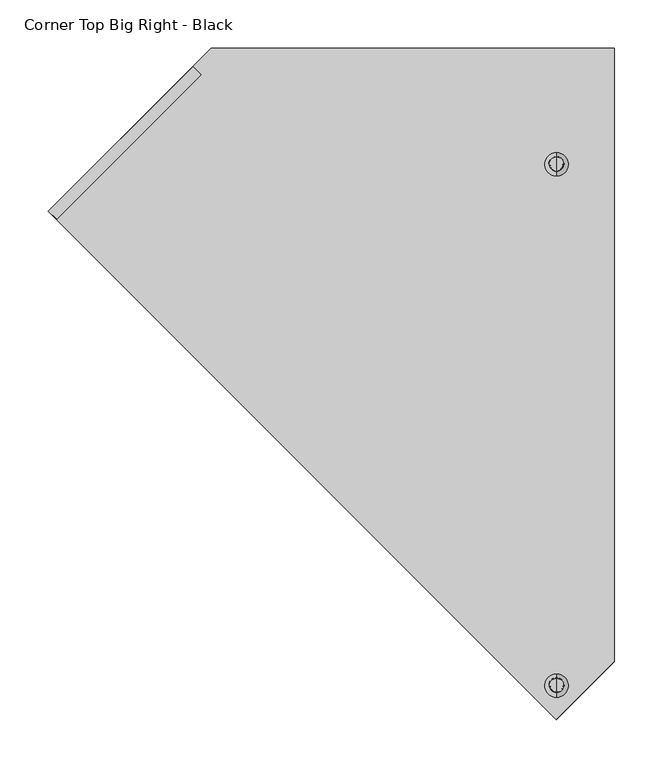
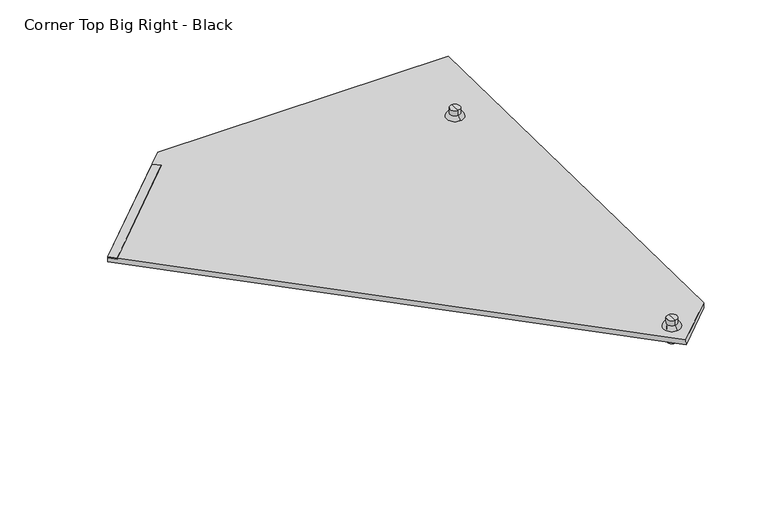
"""IFC4 building model written with IfcOpenShell, lengths in millimetres: proxy geometry, Roofing_Panels_SunStyle_Tile_Corner-Top-Big-Right : Corner Top Big Right - Black."""

from ifc_helpers import new_model, si_unit, point, frame, frame_2d, origin, place, context, project, spatial, polyline, circle_curve, ellipse_curve, trimmed, segment, composite_curve, outline, extrude, source, transform, mapped, element, save
from ifc_brep_helpers import plane_surface, cylinder_surface, revolved_surface, advanced_brep


def corner_top_big_right_black_5e162ca8(model_context):
    return source(origin(), model_context, "Body", "SolidModel", [
        extrude(outline(polyline([(0.0, -12.0000001), (0.0, 0.0), (211.9535765, 0.0), (211.9535765, -12.0), (0.0, -12.0000001)])), frame((-526.8811233, -88.5018869, 16.3055258), z_axis=(0.0, 0.01674516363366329, 0.9998597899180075), x_axis=(0.7071563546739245, 0.7069580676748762, -0.011839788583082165)), (0.0, 0.0, 1.0), 1.5),
        advanced_brep(
        [(0.0, -46.6235618, 17.7421994), (0.0, -33.2904813, 17.5189035), (0.0, -33.6587904, -4.4729659), (0.0, -46.9918709, -4.2496699), (0.0, -52.1227907, 17.8342978), (0.0, -27.7912524, 17.4268051), (0.0, -47.1737944, 22.7481046), (0.0, -32.5729314, 22.5035765), (0.0, -39.7393344, 30.6287287), (0.0, -32.438903, 30.5064647), (0.0, -47.0397659, 30.7509928), (0.0, -40.3253307, -4.3613179)],
        [
            (0, 1, circle_curve(frame((0.0, -39.9570216, 17.6305515), z_axis=(0.0, -0.016745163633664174, -0.9998597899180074), x_axis=(0.0, 0.9998597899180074, -0.016745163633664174)), 6.6674751)),
            (1, 2),
            (2, 3, circle_curve(frame((0.0, -40.3253307, -4.3613179), z_axis=(0.0, 0.016745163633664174, 0.9998597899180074), x_axis=(0.0, 0.9998597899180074, -0.016745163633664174)), 6.6674751)),
            (3, 0),
            (1, 0, circle_curve(frame((0.0, -39.9570216, 17.6305515), z_axis=(0.0, -0.016745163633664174, -0.9998597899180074), x_axis=(0.0, 0.9998597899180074, -0.016745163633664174)), 6.6674751)),
            (3, 2, circle_curve(frame((0.0, -40.3253307, -4.3613179), z_axis=(0.0, 0.016745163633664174, 0.9998597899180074), x_axis=(0.0, 0.9998597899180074, -0.016745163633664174)), 6.6674751)),
            (4, 5, circle_curve(frame((0.0, -39.9570216, 17.6305515), z_axis=(0.0, -0.016745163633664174, -0.9998597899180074), x_axis=(0.0, 0.9998597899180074, -0.016745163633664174)), 12.1674751)),
            (5, 1),
            (0, 4),
            (5, 4, circle_curve(frame((0.0, -39.9570216, 17.6305515), z_axis=(0.0, -0.016745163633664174, -0.9998597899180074), x_axis=(0.0, 0.9998597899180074, -0.016745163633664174)), 12.1674751)),
            (6, 7, circle_curve(frame((0.0, -39.8733629, 22.6258405), z_axis=(0.0, -0.016745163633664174, -0.9998597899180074), x_axis=(0.0, 0.9998597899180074, -0.016745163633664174)), 7.3014552)),
            (7, 5, circle_curve(frame((0.0, -32.8771294, 17.4268051), z_axis=(-1.0, 0.0, 0.0), x_axis=(0.0, -1.0, 0.0)), 5.0858769)),
            (4, 6, circle_curve(frame((0.0, -47.0397659, 17.663994), z_axis=(-1.0, 0.0, 0.0), x_axis=(0.0, 0.9994391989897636, -0.03348563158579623)), 5.0858769)),
            (7, 6, circle_curve(frame((0.0, -39.8733629, 22.6258405), z_axis=(0.0, -0.016745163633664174, -0.9998597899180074), x_axis=(0.0, 0.9998597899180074, -0.016745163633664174)), 7.3014552)),
            (8, 9),
            (9, 10, circle_curve(frame((0.0, -39.7393344, 30.6287287), z_axis=(0.0, 0.016745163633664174, 0.9998597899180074), x_axis=(0.0, 0.9998597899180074, -0.016745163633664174)), 7.3014552)),
            (10, 8),
            (10, 9, circle_curve(frame((0.0, -39.7393344, 30.6287287), z_axis=(0.0, 0.016745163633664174, 0.9998597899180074), x_axis=(0.0, 0.9998597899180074, -0.016745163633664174)), 7.3014552)),
            (2, 11),
            (11, 3),
            (9, 7),
            (6, 10),
        ],
        [
            cylinder_surface(frame((0.0, -39.7393344, 30.6287287), z_axis=(0.0, 0.016745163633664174, 0.9998597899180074), x_axis=(0.0, 0.9998597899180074, -0.016745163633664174)), 6.6674751),
            plane_surface(frame((0.0, -39.9570216, 17.6305515), z_axis=(0.0, -0.016745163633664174, -0.9998597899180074), x_axis=(0.0, 0.9998597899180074, -0.016745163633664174))),
            revolved_surface(trimmed(ellipse_curve(frame((0.0, -32.8771294, 17.4268051), z_axis=(1.0, 0.0, 0.0), x_axis=(0.0, -1.0, 0.0)), 5.0858769, 5.0858769), [point((0.0, -27.7912524, 17.4268051))], [point((0.0, -32.5729314, 22.5035765))], True, "CARTESIAN"), (0.0, -39.7393344, 30.6287287), (0.0, 0.016745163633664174, 0.9998597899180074)),
            plane_surface(frame((0.0, -39.7393344, 30.6287287), z_axis=(0.0, 0.016745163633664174, 0.9998597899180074), x_axis=(0.0, 0.9998597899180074, -0.016745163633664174))),
            plane_surface(frame((0.0, -40.3253307, -4.3613179), z_axis=(0.0, -0.016745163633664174, -0.9998597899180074), x_axis=(0.0, 0.9998597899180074, -0.016745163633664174))),
            cylinder_surface(frame((0.0, -39.7393344, 30.6287287), z_axis=(0.0, 0.016745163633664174, 0.9998597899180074), x_axis=(0.0, 0.9998597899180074, -0.016745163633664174)), 7.3014552),
        ],
        [
            (0, [[1, 2, 3, 4]]),
            (0, [[5, -4, 6, -2]]),
            (1, [[7, 8, -1, 9]]),
            (1, [[10, -9, -5, -8]]),
            (2, [[11, 12, -7, 13]]),
            (2, [[14, -13, -10, -12]]),
            (3, [[15, 16, 17]]),
            (3, [[-17, 18, -15]]),
            (4, [[-3, 19, 20]]),
            (4, [[-6, -20, -19]]),
            (5, [[-16, 21, -11, 22]]),
            (5, [[-18, -22, -14, -21]]),
        ],
    ),
        advanced_brep(
        [(0.0, -586.7060528, 26.2215343), (0.0, -573.3729723, 25.9982384), (0.0, -573.7412814, 4.0063691), (0.0, -587.0743619, 4.229665), (0.0, -592.2052817, 26.3136327), (0.0, -567.8737434, 25.90614), (0.0, -587.2562854, 31.2274395), (0.0, -572.6554224, 30.9829114), (0.0, -579.8218254, 39.1080636), (0.0, -572.521394, 38.9857996), (0.0, -587.1222569, 39.2303277), (0.0, -580.4078217, 4.118017)],
        [
            (0, 1, circle_curve(frame((0.0, -580.0395126, 26.1098864), z_axis=(0.0, -0.016745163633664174, -0.9998597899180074), x_axis=(0.0, 0.9998597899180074, -0.016745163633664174)), 6.6674751)),
            (1, 2),
            (2, 3, circle_curve(frame((0.0, -580.4078217, 4.118017), z_axis=(0.0, 0.016745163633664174, 0.9998597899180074), x_axis=(0.0, 0.9998597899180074, -0.016745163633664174)), 6.6674751)),
            (3, 0),
            (1, 0, circle_curve(frame((0.0, -580.0395126, 26.1098864), z_axis=(0.0, -0.016745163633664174, -0.9998597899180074), x_axis=(0.0, 0.9998597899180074, -0.016745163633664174)), 6.6674751)),
            (3, 2, circle_curve(frame((0.0, -580.4078217, 4.118017), z_axis=(0.0, 0.016745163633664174, 0.9998597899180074), x_axis=(0.0, 0.9998597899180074, -0.016745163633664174)), 6.6674751)),
            (4, 5, circle_curve(frame((0.0, -580.0395126, 26.1098864), z_axis=(0.0, -0.016745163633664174, -0.9998597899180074), x_axis=(0.0, 0.9998597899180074, -0.016745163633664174)), 12.1674751)),
            (5, 1),
            (0, 4),
            (5, 4, circle_curve(frame((0.0, -580.0395126, 26.1098864), z_axis=(0.0, -0.016745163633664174, -0.9998597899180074), x_axis=(0.0, 0.9998597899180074, -0.016745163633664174)), 12.1674751)),
            (6, 7, circle_curve(frame((0.0, -579.9558539, 31.1051755), z_axis=(0.0, -0.016745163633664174, -0.9998597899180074), x_axis=(0.0, 0.9998597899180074, -0.016745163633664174)), 7.3014552)),
            (7, 5, circle_curve(frame((0.0, -572.9596204, 25.90614), z_axis=(-1.0, 0.0, 0.0), x_axis=(0.0, -1.0, 0.0)), 5.0858769)),
            (4, 6, circle_curve(frame((0.0, -587.1222569, 26.1433289), z_axis=(-1.0, 0.0, 0.0), x_axis=(0.0, 0.9994391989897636, -0.03348563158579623)), 5.0858769)),
            (7, 6, circle_curve(frame((0.0, -579.9558539, 31.1051755), z_axis=(0.0, -0.016745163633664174, -0.9998597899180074), x_axis=(0.0, 0.9998597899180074, -0.016745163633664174)), 7.3014552)),
            (8, 9),
            (9, 10, circle_curve(frame((0.0, -579.8218254, 39.1080636), z_axis=(0.0, 0.016745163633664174, 0.9998597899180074), x_axis=(0.0, 0.9998597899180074, -0.016745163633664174)), 7.3014552)),
            (10, 8),
            (10, 9, circle_curve(frame((0.0, -579.8218254, 39.1080636), z_axis=(0.0, 0.016745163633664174, 0.9998597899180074), x_axis=(0.0, 0.9998597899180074, -0.016745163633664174)), 7.3014552)),
            (2, 11),
            (11, 3),
            (9, 7),
            (6, 10),
        ],
        [
            cylinder_surface(frame((0.0, -579.8218254, 39.1080636), z_axis=(0.0, 0.016745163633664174, 0.9998597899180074), x_axis=(0.0, 0.9998597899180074, -0.016745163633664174)), 6.6674751),
            plane_surface(frame((0.0, -580.0395126, 26.1098864), z_axis=(0.0, -0.016745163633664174, -0.9998597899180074), x_axis=(0.0, 0.9998597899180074, -0.016745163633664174))),
            revolved_surface(trimmed(ellipse_curve(frame((0.0, -572.9596204, 25.90614), z_axis=(1.0, 0.0, 0.0), x_axis=(0.0, -1.0, 0.0)), 5.0858769, 5.0858769), [point((0.0, -567.8737434, 25.90614))], [point((0.0, -572.6554224, 30.9829114))], True, "CARTESIAN"), (0.0, -579.8218254, 39.1080636), (0.0, 0.016745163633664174, 0.9998597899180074)),
            plane_surface(frame((0.0, -579.8218254, 39.1080636), z_axis=(0.0, 0.016745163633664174, 0.9998597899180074), x_axis=(0.0, 0.9998597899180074, -0.016745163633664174))),
            plane_surface(frame((0.0, -580.4078217, 4.118017), z_axis=(0.0, -0.016745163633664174, -0.9998597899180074), x_axis=(0.0, 0.9998597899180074, -0.016745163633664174))),
            cylinder_surface(frame((0.0, -579.8218254, 39.1080636), z_axis=(0.0, 0.016745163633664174, 0.9998597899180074), x_axis=(0.0, 0.9998597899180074, -0.016745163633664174)), 7.3014552),
        ],
        [
            (0, [[1, 2, 3, 4]]),
            (0, [[5, -4, 6, -2]]),
            (1, [[7, 8, -1, 9]]),
            (1, [[10, -9, -5, -8]]),
            (2, [[11, 12, -7, 13]]),
            (2, [[14, -13, -10, -12]]),
            (3, [[15, 16, 17]]),
            (3, [[-17, 18, -15]]),
            (4, [[-3, 19, 20]]),
            (4, [[-6, -20, -19]]),
            (5, [[-16, 21, -11, 22]]),
            (5, [[-18, -22, -14, -21]]),
        ],
    ),
        extrude(outline(polyline([(660.3542643, 366.1481234), (660.3542643, -52.1893954), (24.8473132, -52.1893954), (-35.248336, 7.914681), (491.6445714, 534.8814744), (660.3542643, 366.1481234)]), holes=[composite_curve([segment(trimmed(circle_curve(frame_2d((0.0, 8.0)), 8.0), [point((0.0, 16.0))], [point((0.0, 0.0))], True, "CARTESIAN"), True, "CONTINUOUS"), segment(trimmed(circle_curve(frame_2d((0.0, 8.0)), 8.0), [point((0.0, 0.0))], [point((0.0, 16.0))], True, "CARTESIAN"), True, "CONTINUOUS")], self_intersect=False), composite_curve([segment(trimmed(circle_curve(frame_2d((540.0971415, 7.9143585)), 8.0), [point((540.0971415, 15.9143585))], [point((540.0971415, -0.0856415))], True, "CARTESIAN"), True, "CONTINUOUS"), segment(trimmed(circle_curve(frame_2d((540.0971415, 7.9143585)), 8.0), [point((540.0971415, -0.0856415))], [point((540.0971415, 15.9143585))], True, "CARTESIAN"), True, "CONTINUOUS")], self_intersect=False)]), frame((7.9143585, -580.0923609, 18.5176762), z_axis=(0.0, 0.016745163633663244, 0.9998597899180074), x_axis=(0.0, 0.9998597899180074, -0.016745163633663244)), (0.0, 0.0, 1.0), 7.5),
    ])


if __name__ == "__main__":
    model = new_model("IFC4")
    model_context = context("Model", 3, world=origin())
    ifc_project = project(units=[si_unit("LENGTHUNIT", "METRE", prefix="MILLI")], contexts=[model_context])
    site = spatial("IfcSite", under=ifc_project)
    building = spatial("IfcBuilding", under=site)
    placement = place(None, origin())
    corner_top_big_right_black_shape = corner_top_big_right_black_5e162ca8(model_context)
    element("IfcBuildingElementProxy", 1, Name="Roofing_Panels_SunStyle_Tile_Corner-Top-Big-Right : Corner Top Big Right - Black", ObjectType="Roofing_Panels_SunStyle_Tile_Corner-Top-Big-Right : Corner Top Big Right - Black", at=placement, inside=building, context=model_context, shape_type="MappedRepresentation", body=[
        mapped(corner_top_big_right_black_shape, transform((0.0, 0.0, 0.0), x_axis=(1.0, 0.0, 0.0), y_axis=(0.0, 1.0, 0.0), z_axis=(0.0, 0.0, 1.0))),
    ])
    save(model, "model.ifc")
